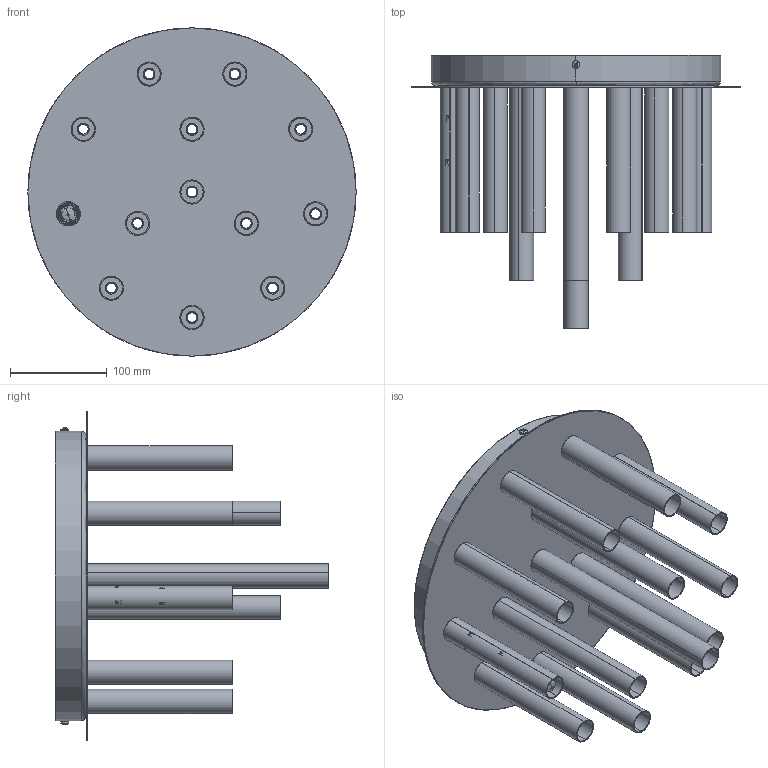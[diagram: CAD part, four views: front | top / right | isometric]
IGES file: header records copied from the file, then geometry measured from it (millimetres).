
Start section: SolidWorks IGES file using analytic representation for surfaces
Global section: file name: F:\GABRYSIA\MODELE 3D\STALACTITE_9054_8355_8356_WWW\STALACTITE_9054_8355_8356.IGS; native system: SolidWorks 2017; preprocessor: SolidWorks 2017; author: Togambi; date: 200707.123419; units: millimetre
Bounding box: 340 x 283.5 x 340 mm (x, y, z)
Surface area: 777754.6 mm2 (no closed solid volume)
Topology: 0 solids, 0 shells, 1067 faces, 17502 edges, 17478 vertices
Faces by surface type: revolution 636, bspline 431
